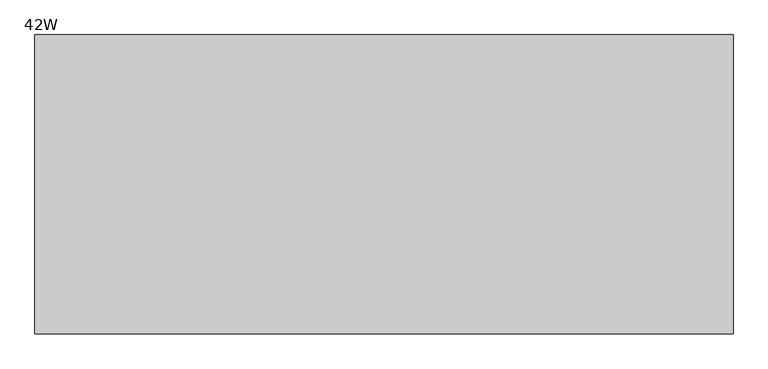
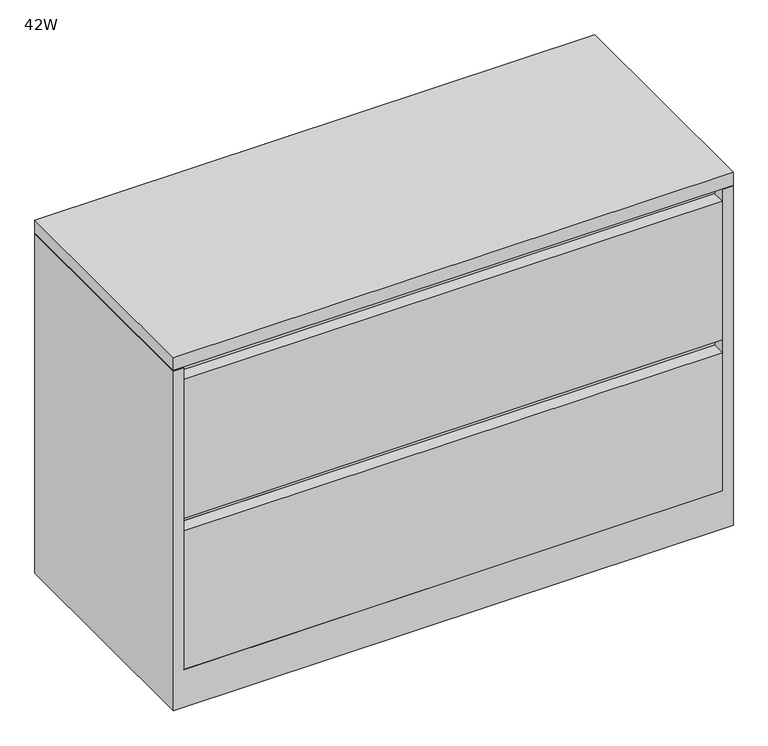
"""IFC4 building model written with IfcOpenShell, lengths in millimetres: furniture geometry, Steelcase - 900 Series - Storage - Lateral File With Drawer - 28H - Flush Steel : 42W."""

from ifc_helpers import new_model, si_unit, frame, origin, place, context, project, spatial, polyline, outline, extrude, faceted_brep, source, transform, mapped, element, save


def furniture_42w_8c445c5e(model_context):
    return source(origin(), model_context, "Body", "SolidModel", [
        extrude(outline(polyline([(1066.8, 0.0), (1066.8, -457.2), (0.0, -457.2), (0.0, 0.0), (1066.8, 0.0)])), frame((0.0, 0.0, 685.7999516), z_axis=(0.0, 0.0, 1.0), x_axis=(1.0, 0.0, 0.0)), (0.0, 0.0, 1.0), 25.4),
        faceted_brep([(1047.4960184, -25.2721219, 684.276), (1047.4960184, -457.2, 684.276), (1066.8, -457.2, 684.276), (1066.8, 0.0, 684.276), (0.0, 0.0, 684.276), (0.0, -457.2, 684.276), (19.3039998, -457.2, 684.276), (19.3039998, -25.2721219, 684.276), (0.0, -457.2, 0.0), (0.0, 0.0, 0.0), (1066.8, 0.0, 0.0), (1066.8, -457.2, 0.0), (1047.4960184, -25.2721219, 381.0), (1047.4960184, -431.800255, 381.0), (1047.4960184, -431.800255, 355.6), (1047.4960184, -25.2721219, 355.6), (1047.4960184, -25.2721219, 76.2), (1047.4960184, -457.2, 76.2), (19.3039998, -457.2, 76.2), (19.3039998, -25.2721219, 76.2), (19.3039998, -25.2721219, 355.6), (19.3039998, -431.800255, 355.6), (19.3039998, -431.800255, 381.0), (19.3039998, -25.2721219, 381.0)], [[[0, 1, 2, 3, 4, 5, 6, 7]], [[8, 9, 10, 11]], [[1, 0, 12, 13, 14, 15, 16, 17]], [[2, 1, 17, 18, 6, 5, 8, 11]], [[3, 2, 11, 10]], [[4, 3, 10, 9]], [[5, 4, 9, 8]], [[7, 6, 18, 19, 20, 21, 22, 23]], [[0, 7, 23, 12]], [[16, 15, 20, 19]], [[18, 17, 16, 19]], [[22, 13, 12, 23]], [[13, 22, 21, 14]], [[14, 21, 20, 15]]]),
        extrude(outline(polyline([(1047.4960184, -25.2721219), (1047.4960184, -431.800255), (19.3039998, -431.800255), (19.3039998, -25.2721219), (1047.4960184, -25.2721219)])), frame((0.0, 0.0, 660.4), z_axis=(0.0, 0.0, 1.0), x_axis=(1.0, 0.0, 0.0)), (0.0, 0.0, 1.0), 25.4),
        extrude(outline(polyline([(1047.4960184, -25.2721219), (1047.4960184, -415.9241219), (20.8289612, -415.9241219), (20.8289612, -25.2721219), (1047.4960184, -25.2721219)])), frame((0.0, 0.0, 684.276), z_axis=(0.0, 0.0, 1.0), x_axis=(1.0, 0.0, 0.0)), (0.0, 0.0, 1.0), 1.5239516),
        extrude(outline(polyline([(1045.9722015, -457.2), (20.8289612, -457.2), (20.8289612, -431.800255), (1045.9722015, -431.800255), (1045.9722015, -457.2)])), frame((0.0, 0.0, 76.2), z_axis=(0.0, 0.0, 1.0), x_axis=(1.0, 0.0, 0.0)), (0.0, 0.0, 1.0), 279.4),
        extrude(outline(polyline([(1045.9722015, -457.2), (20.8289612, -457.2), (20.8289612, -431.800255), (1045.9722015, -431.800255), (1045.9722015, -457.2)])), frame((0.0, 0.0, 381.0), z_axis=(0.0, 0.0, 1.0), x_axis=(1.0, 0.0, 0.0)), (0.0, 0.0, 1.0), 279.4),
    ])


if __name__ == "__main__":
    model = new_model("IFC4")
    model_context = context("Model", 3, world=origin())
    ifc_project = project(units=[si_unit("LENGTHUNIT", "METRE", prefix="MILLI")], contexts=[model_context])
    site = spatial("IfcSite", under=ifc_project)
    building = spatial("IfcBuilding", under=site)
    placement = place(None, origin())
    furniture_42w_shape = furniture_42w_8c445c5e(model_context)
    element("IfcFurniture", 1, ObjectType="Steelcase - 900 Series - Storage - Lateral File With Drawer - 28H - Flush Steel : 42W", at=placement, inside=building, context=model_context, shape_type="MappedRepresentation", body=[
        mapped(furniture_42w_shape, transform((0.0, 0.0, 0.0), x_axis=(1.0, 0.0, 0.0), y_axis=(0.0, 1.0, 0.0), z_axis=(0.0, 0.0, 1.0))),
    ])
    save(model, "model.ifc")
